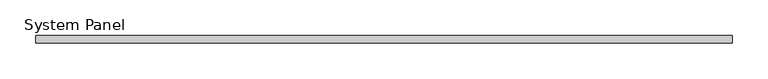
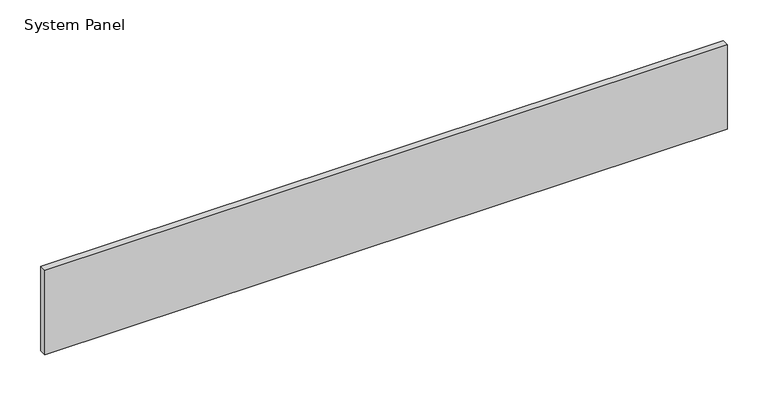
"""IFC4 building model written with IfcOpenShell, lengths in millimetres: plate geometry, System Panel : VACÍO."""

from ifc_helpers import new_model, si_unit, origin, origin_with_axes, place, context, project, spatial, polyline, outline, extrude, source, transform, mapped, element, save


def system_panel_57a81bb3(model_context):
    return source(origin(), model_context, "Body", "SweptSolid", [
        extrude(outline(polyline([(483.7585063, -5.0), (-483.7585063, -5.0), (-483.7585063, 5.0), (483.7585063, 5.0), (483.7585063, -5.0)])), origin_with_axes(), (0.0, 0.0, 1.0), 126.8571429),
    ])


if __name__ == "__main__":
    model = new_model("IFC4")
    model_context = context("Model", 3, world=origin())
    ifc_project = project(units=[si_unit("LENGTHUNIT", "METRE", prefix="MILLI")], contexts=[model_context])
    site = spatial("IfcSite", under=ifc_project)
    building = spatial("IfcBuilding", under=site)
    placement = place(None, origin())
    system_panel_shape = system_panel_57a81bb3(model_context)
    element("IfcPlate", 1, ObjectType="System Panel : VACÍO", at=placement, inside=building, context=model_context, shape_type="MappedRepresentation", body=[
        mapped(system_panel_shape, transform((0.0, 0.0, 0.0), x_axis=(1.0, 0.0, 0.0), y_axis=(0.0, 1.0, 0.0), z_axis=(0.0, 0.0, 1.0))),
    ])
    save(model, "model.ifc")
